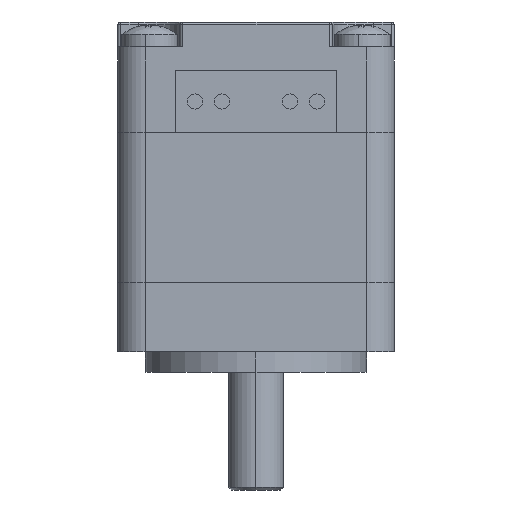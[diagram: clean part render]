
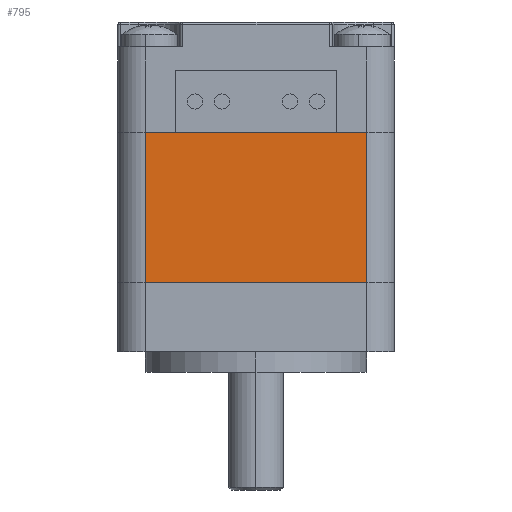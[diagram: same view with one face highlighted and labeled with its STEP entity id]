
A CAD part, front view. The second image highlights one B-rep face of the part: STEP entity #795.
In plain terms, the highlighted planar face has unit normal (0, -1, 0).
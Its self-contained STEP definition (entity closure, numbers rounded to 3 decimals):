
#3 = LINE ( 'NONE', #1883, #6110 ) ;
#69 = VECTOR ( 'NONE', #1298, 1000. ) ;
#321 = CARTESIAN_POINT ( 'NONE',  ( 8., -10., 0. ) ) ;
#494 = DIRECTION ( 'NONE',  ( 0., 0., -1. ) ) ;
#569 = CARTESIAN_POINT ( 'NONE',  ( -8., -10., 10.85 ) ) ;
#795 = ADVANCED_FACE ( 'NONE', ( #1361 ), #6027, .F. ) ;
#979 = DIRECTION ( 'NONE',  ( 1., 0., 0. ) ) ;
#1154 = EDGE_CURVE ( 'NONE', #3865, #3317, #6749, .T. ) ;
#1164 = EDGE_CURVE ( 'NONE', #4448, #3865, #7341, .T. ) ;
#1298 = DIRECTION ( 'NONE',  ( 1., 0., 0. ) ) ;
#1361 = FACE_OUTER_BOUND ( 'NONE', #6172, .T. ) ;
#1366 = EDGE_CURVE ( 'NONE', #4448, #3079, #7715, .T. ) ;
#1883 = CARTESIAN_POINT ( 'NONE',  ( 8., -10., 15.05 ) ) ;
#2497 = EDGE_CURVE ( 'NONE', #3317, #3079, #3, .T. ) ;
#2620 = ORIENTED_EDGE ( 'NONE', *, *, #1154, .F. ) ;
#3079 = VERTEX_POINT ( 'NONE', #321 ) ;
#3317 = VERTEX_POINT ( 'NONE', #5985 ) ;
#3653 = ORIENTED_EDGE ( 'NONE', *, *, #1164, .F. ) ;
#3762 = ORIENTED_EDGE ( 'NONE', *, *, #2497, .F. ) ;
#3865 = VERTEX_POINT ( 'NONE', #569 ) ;
#4234 = ORIENTED_EDGE ( 'NONE', *, *, #1366, .T. ) ;
#4448 = VERTEX_POINT ( 'NONE', #5919 ) ;
#4658 = CARTESIAN_POINT ( 'NONE',  ( 0., -10., 0. ) ) ;
#4797 = CARTESIAN_POINT ( 'NONE',  ( 10., -10., 10.85 ) ) ;
#5919 = CARTESIAN_POINT ( 'NONE',  ( -8., -10., 0. ) ) ;
#5981 = VECTOR ( 'NONE', #979, 1000. ) ;
#5985 = CARTESIAN_POINT ( 'NONE',  ( 8., -10., 10.85 ) ) ;
#6027 = PLANE ( 'NONE',  #6389 ) ;
#6110 = VECTOR ( 'NONE', #494, 1000. ) ;
#6172 = EDGE_LOOP ( 'NONE', ( #4234, #3762, #2620, #3653 ) ) ;
#6305 = CARTESIAN_POINT ( 'NONE',  ( 10., -10., 15.05 ) ) ;
#6328 = DIRECTION ( 'NONE',  ( 0., 1., 0. ) ) ;
#6359 = DIRECTION ( 'NONE',  ( -1., 0., 0. ) ) ;
#6389 = AXIS2_PLACEMENT_3D ( 'NONE', #6305, #6328, #6359 ) ;
#6723 = DIRECTION ( 'NONE',  ( 0., 0., 1. ) ) ;
#6749 = LINE ( 'NONE', #4797, #69 ) ;
#7341 = LINE ( 'NONE', #7659, #7540 ) ;
#7540 = VECTOR ( 'NONE', #6723, 1000. ) ;
#7659 = CARTESIAN_POINT ( 'NONE',  ( -8., -10., 15.05 ) ) ;
#7715 = LINE ( 'NONE', #4658, #5981 ) ;
